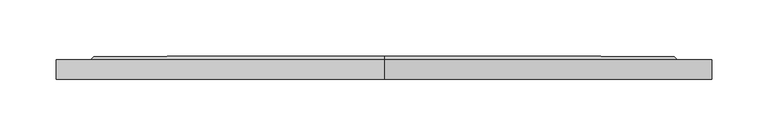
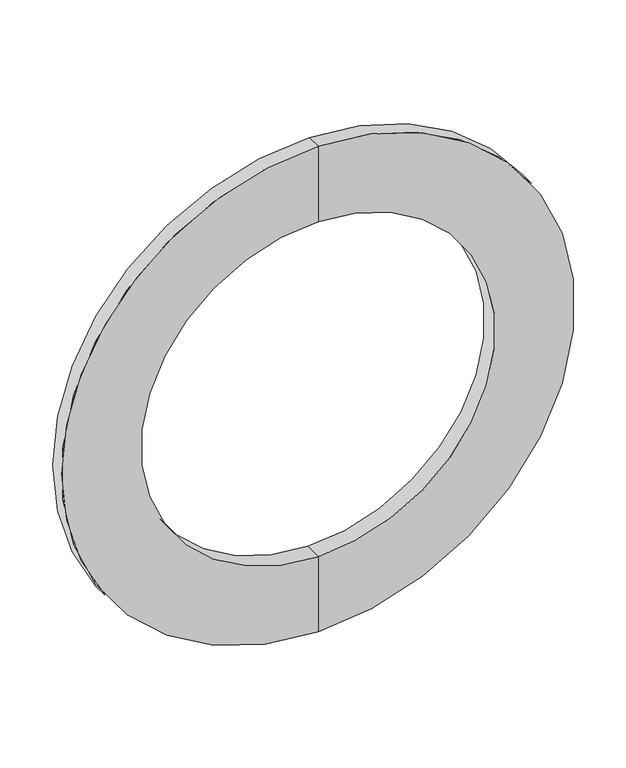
"""IFC4 building model written with IfcOpenShell, lengths in millimetres: pipe fitting geometry, Фланец : Фланец."""

from ifc_helpers import new_model, si_unit, frame, origin, place, context, project, spatial, polyline, circle_curve, source, transform, mapped, element, save
from ifc_brep_helpers import plane_surface, cylinder_surface, revolved_surface, advanced_brep


def pipe_fitting_422aa475(model_context):
    return source(origin(), model_context, "Body", "AdvancedBrep", [
        advanced_brep(
        [(0.0, 0.0, -290.0), (0.0, 0.0, 290.0), (0.0, 17.0, 290.0), (0.0, 17.0, -290.0), (0.0, 0.0, -200.0), (0.0, 0.0, 200.0), (0.0, 20.0, -200.0), (0.0, 20.0, 200.0), (0.0, 20.0, -258.5), (0.0, 20.0, 258.5), (0.0, 17.0, -261.0), (0.0, 17.0, 261.0)],
        [
            (0, 1, circle_curve(frame((0.0, 0.0, 0.0), z_axis=(0.0, 1.0, 0.0), x_axis=(0.0, 0.0, 1.0)), 290.0)),
            (1, 2),
            (2, 3, circle_curve(frame((0.0, 17.0, 0.0), z_axis=(0.0, -1.0, 0.0), x_axis=(0.0, 0.0, 1.0)), 290.0)),
            (3, 0),
            (1, 0, circle_curve(frame((0.0, 0.0, 0.0), z_axis=(0.0, 1.0, 0.0), x_axis=(0.0, 0.0, 1.0)), 290.0)),
            (3, 2, circle_curve(frame((0.0, 17.0, 0.0), z_axis=(0.0, -1.0, 0.0), x_axis=(0.0, 0.0, 1.0)), 290.0)),
            (4, 5, circle_curve(frame((0.0, 0.0, 0.0), z_axis=(0.0, 1.0, 0.0), x_axis=(0.0, 0.0, 1.0)), 200.0)),
            (5, 1),
            (0, 4),
            (5, 4, circle_curve(frame((0.0, 0.0, 0.0), z_axis=(0.0, 1.0, 0.0), x_axis=(0.0, 0.0, 1.0)), 200.0)),
            (6, 7, circle_curve(frame((0.0, 20.0, 0.0), z_axis=(0.0, 1.0, 0.0), x_axis=(0.0, 0.0, 1.0)), 200.0)),
            (7, 5),
            (4, 6),
            (7, 6, circle_curve(frame((0.0, 20.0, 0.0), z_axis=(0.0, 1.0, 0.0), x_axis=(0.0, 0.0, 1.0)), 200.0)),
            (8, 9, circle_curve(frame((0.0, 20.0, 0.0), z_axis=(0.0, 1.0, 0.0), x_axis=(0.0, 0.0, 1.0)), 258.5)),
            (9, 7),
            (6, 8),
            (9, 8, circle_curve(frame((0.0, 20.0, 0.0), z_axis=(0.0, 1.0, 0.0), x_axis=(0.0, 0.0, 1.0)), 258.5)),
            (10, 11, circle_curve(frame((0.0, 17.0, 0.0), z_axis=(0.0, 1.0, 0.0), x_axis=(0.0, 0.0, 1.0)), 261.0)),
            (11, 9),
            (8, 10),
            (11, 10, circle_curve(frame((0.0, 17.0, 0.0), z_axis=(0.0, 1.0, 0.0), x_axis=(0.0, 0.0, 1.0)), 261.0)),
            (2, 11),
            (10, 3),
        ],
        [
            cylinder_surface(frame((0.0, -60.0, 0.0), z_axis=(0.0, -1.0, 0.0), x_axis=(0.0, 0.0, 1.0)), 290.0),
            plane_surface(frame((0.0, 0.0, 0.0), z_axis=(0.0, -1.0, 0.0), x_axis=(0.0, 0.0, 1.0))),
            revolved_surface(polyline([(0.0, 0.0, 200.0), (0.0, 20.0, 200.0)]), (0.0, -60.0, 0.0), (0.0, -1.0, 0.0)),
            plane_surface(frame((0.0, 20.0, 0.0), z_axis=(0.0, 1.0, 0.0), x_axis=(0.0, 0.0, 1.0))),
            revolved_surface(polyline([(0.0, 20.0, 258.5), (0.0, 17.0, 261.0)]), (0.0, -60.0, 0.0), (0.0, -1.0, 0.0)),
            plane_surface(frame((0.0, 17.0, 0.0), z_axis=(0.0, 1.0, 0.0), x_axis=(0.0, 0.0, 1.0))),
        ],
        [
            (0, [[1, 2, 3, 4]]),
            (0, [[5, -4, 6, -2]]),
            (1, [[7, 8, -1, 9]]),
            (1, [[10, -9, -5, -8]]),
            (2, [[11, 12, -7, 13]]),
            (2, [[14, -13, -10, -12]]),
            (3, [[15, 16, -11, 17]]),
            (3, [[18, -17, -14, -16]]),
            (4, [[19, 20, -15, 21]]),
            (4, [[22, -21, -18, -20]]),
            (5, [[-3, 23, -19, 24]]),
            (5, [[-6, -24, -22, -23]]),
        ],
    ),
    ])


if __name__ == "__main__":
    model = new_model("IFC4")
    model_context = context("Model", 3, world=origin())
    ifc_project = project(units=[si_unit("LENGTHUNIT", "METRE", prefix="MILLI")], contexts=[model_context])
    site = spatial("IfcSite", under=ifc_project)
    building = spatial("IfcBuilding", under=site)
    placement = place(None, origin())
    pipe_fitting_shape = pipe_fitting_422aa475(model_context)
    element("IfcPipeFitting", 1, ObjectType="Фланец : Фланец", at=placement, inside=building, context=model_context, shape_type="MappedRepresentation", body=[
        mapped(pipe_fitting_shape, transform((0.0, 0.0, 0.0), x_axis=(1.0, 0.0, 0.0), y_axis=(0.0, 1.0, 0.0), z_axis=(0.0, 0.0, 1.0))),
    ])
    save(model, "model.ifc")
